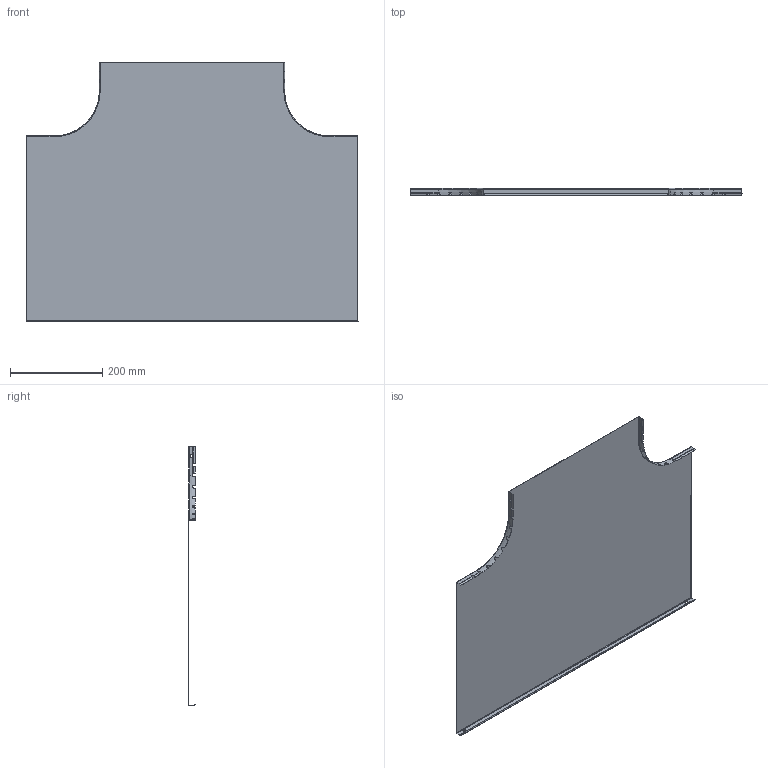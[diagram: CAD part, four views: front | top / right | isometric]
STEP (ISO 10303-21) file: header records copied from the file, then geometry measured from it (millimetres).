
FILE_DESCRIPTION (( 'STEP AP203' ), '1' );
FILE_NAME ('ERE_TAPA TE 400.step', '2023-07-28T14:51:59', ( '' ), ( '' ), 'SwSTEP 2.0', 'SolidWorks 2022', '' );
FILE_SCHEMA (( 'CONFIG_CONTROL_DESIGN' ));
Length unit declared in the file: millimetre
Products named in the file (1): ERE_TAPA TE 400
Bounding box: 720 x 14.96 x 561.5 mm (x, y, z)
Volume: 262054.2 mm3; surface area: 750694.5 mm2
Topology: 1 solids, 1 shells, 318 faces, 828 edges, 504 vertices
Faces by surface type: plane 154, bspline 88, cylinder 72, torus 4
Entity records: 17949 total; most frequent: CARTESIAN_POINT 10921, ORIENTED_EDGE 1656, DIRECTION 1135, EDGE_CURVE 828, VERTEX_POINT 504, AXIS2_PLACEMENT_3D 411, B_SPLINE_CURVE_WITH_KNOTS 335, FACE_OUTER_BOUND 318
